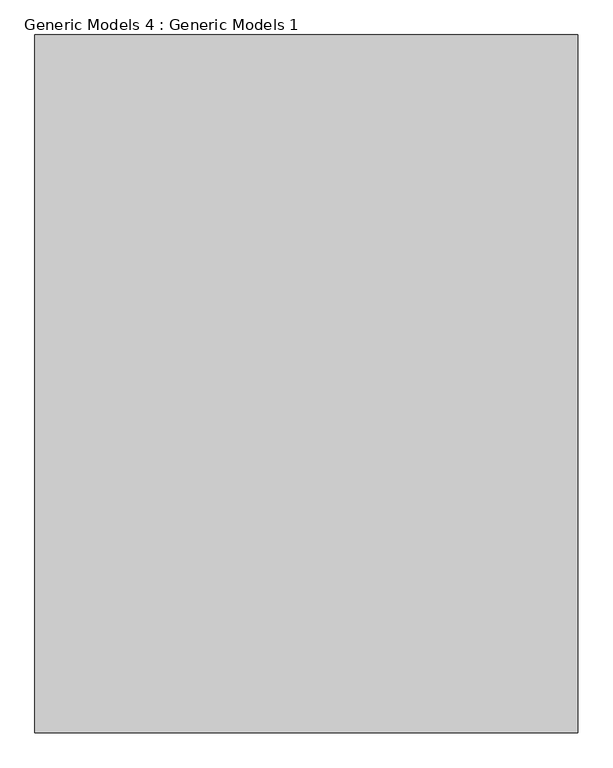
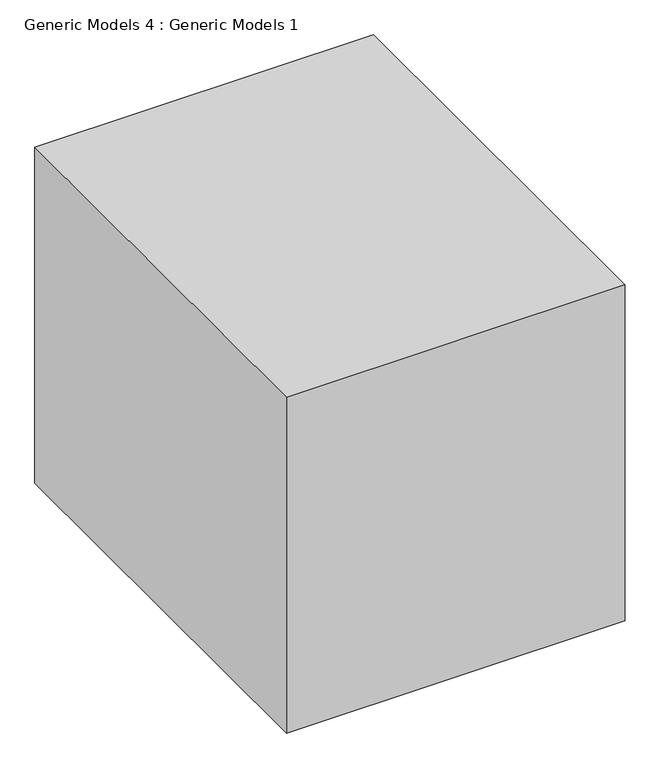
"""IFC4 building model written with IfcOpenShell, lengths in millimetres: proxy geometry, Generic Models 4 : Generic Models 1."""

from ifc_helpers import new_model, si_unit, origin, origin_with_axes, place, context, project, spatial, polyline, outline, extrude, source, transform, mapped, element, save


def generic_models_4_generic_models_1_284cbda2(model_context):
    return source(origin(), model_context, "Body", "SweptSolid", [
        extrude(outline(polyline([(1400.0672592, -11396.7271983), (1400.0672592, -5996.7271983), (5600.0672592, -5996.7271983), (5600.0672592, -11396.7271983), (1400.0672592, -11396.7271983)])), origin_with_axes(), (0.0, 0.0, 1.0), 4400.8412466),
    ])


if __name__ == "__main__":
    model = new_model("IFC4")
    model_context = context("Model", 3, world=origin())
    ifc_project = project(units=[si_unit("LENGTHUNIT", "METRE", prefix="MILLI")], contexts=[model_context])
    site = spatial("IfcSite", under=ifc_project)
    building = spatial("IfcBuilding", under=site)
    placement = place(None, origin())
    generic_models_4_generic_models_1_shape = generic_models_4_generic_models_1_284cbda2(model_context)
    element("IfcBuildingElementProxy", 1, Name="Generic Models 4 : Generic Models 1", ObjectType="Generic Models 4 : Generic Models 1", at=placement, inside=building, context=model_context, shape_type="MappedRepresentation", body=[
        mapped(generic_models_4_generic_models_1_shape, transform((0.0, 0.0, 0.0), x_axis=(1.0, 0.0, 0.0), y_axis=(0.0, 1.0, 0.0), z_axis=(0.0, 0.0, 1.0))),
    ])
    save(model, "model.ifc")
